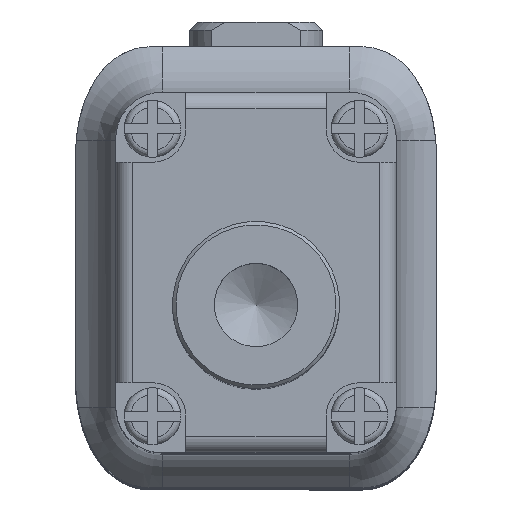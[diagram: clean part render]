
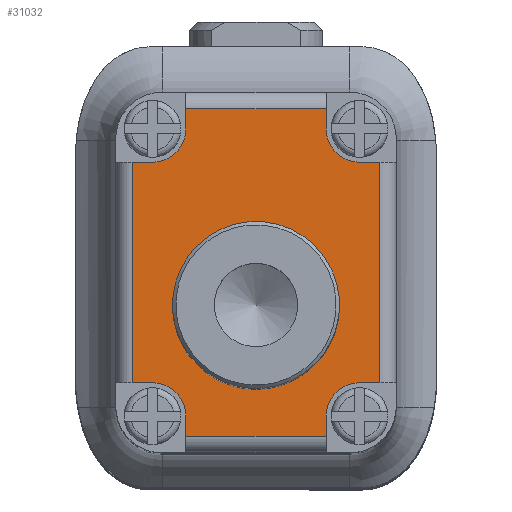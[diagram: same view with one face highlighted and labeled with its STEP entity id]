
A CAD part, top view. The second image highlights one B-rep face of the part: STEP entity #31032.
In plain terms, the highlighted planar face has unit normal (0, 0, 1).
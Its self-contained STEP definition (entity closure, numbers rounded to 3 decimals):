
#292 = DIRECTION ( 'NONE',  ( 1., 0., 0. ) ) ;
#326 = EDGE_CURVE ( 'NONE', #13356, #17825, #51461, .T. ) ;
#646 = DIRECTION ( 'NONE',  ( -1., 0., 0. ) ) ;
#690 = CIRCLE ( 'NONE', #46564, 2.5 ) ;
#863 = LINE ( 'NONE', #28950, #17367 ) ;
#910 = CARTESIAN_POINT ( 'NONE',  ( -3.7, 4.3, 39.5 ) ) ;
#2048 = DIRECTION ( 'NONE',  ( 0., 1., 0. ) ) ;
#2525 = CARTESIAN_POINT ( 'NONE',  ( 0., 0., 39.5 ) ) ;
#4175 = DIRECTION ( 'NONE',  ( 1., 0., 0. ) ) ;
#4527 = CARTESIAN_POINT ( 'NONE',  ( -2.1, 5.9, 39.5 ) ) ;
#4581 = AXIS2_PLACEMENT_3D ( 'NONE', #7989, #23763, #59899 ) ;
#4932 = FACE_OUTER_BOUND ( 'NONE', #12326, .T. ) ;
#6089 = EDGE_CURVE ( 'NONE', #6220, #39320, #33608, .T. ) ;
#6220 = VERTEX_POINT ( 'NONE', #55813 ) ;
#6900 = CARTESIAN_POINT ( 'NONE',  ( 2.1, -0.2, 39.5 ) ) ;
#7195 = DIRECTION ( 'NONE',  ( 0., -1., 0. ) ) ;
#7707 = DIRECTION ( 'NONE',  ( 1., 0., 0. ) ) ;
#7897 = CARTESIAN_POINT ( 'NONE',  ( 3.1, -2.3, 39.5 ) ) ;
#7989 = CARTESIAN_POINT ( 'NONE',  ( -3.1, 5.3, 39.5 ) ) ;
#8858 = LINE ( 'NONE', #27788, #58433 ) ;
#9162 = VERTEX_POINT ( 'NONE', #41100 ) ;
#9494 = EDGE_CURVE ( 'NONE', #53313, #45799, #14066, .T. ) ;
#9506 = LINE ( 'NONE', #28452, #45904 ) ;
#9821 = CARTESIAN_POINT ( 'NONE',  ( 2.5, -2.7, 39.5 ) ) ;
#11414 = CIRCLE ( 'NONE', #13380, 1. ) ;
#11609 = CARTESIAN_POINT ( 'NONE',  ( 3.7, -2.3, 39.5 ) ) ;
#12326 = EDGE_LOOP ( 'NONE', ( #59821, #25979, #54280, #44566, #38048, #17124, #13595, #33919, #39257, #28588, #48825, #49644, #59632, #24680, #41268, #58340 ) ) ;
#12517 = EDGE_CURVE ( 'NONE', #33842, #41521, #11414, .T. ) ;
#12721 = EDGE_CURVE ( 'NONE', #48578, #48578, #690, .T. ) ;
#13134 = CARTESIAN_POINT ( 'NONE',  ( -2.1, -3.9, 39.5 ) ) ;
#13189 = DIRECTION ( 'NONE',  ( -1., 0., 0. ) ) ;
#13356 = VERTEX_POINT ( 'NONE', #13134 ) ;
#13380 = AXIS2_PLACEMENT_3D ( 'NONE', #42867, #43166, #19669 ) ;
#13595 = ORIENTED_EDGE ( 'NONE', *, *, #30666, .F. ) ;
#13619 = VECTOR ( 'NONE', #59188, 1000. ) ;
#14066 = LINE ( 'NONE', #46151, #25646 ) ;
#15304 = FACE_BOUND ( 'NONE', #40498, .T. ) ;
#15330 = EDGE_CURVE ( 'NONE', #33842, #6220, #24574, .T. ) ;
#15382 = VECTOR ( 'NONE', #4175, 1000. ) ;
#16022 = EDGE_CURVE ( 'NONE', #47951, #39320, #43568, .T. ) ;
#16274 = DIRECTION ( 'NONE',  ( 0., 0., 1. ) ) ;
#16332 = AXIS2_PLACEMENT_3D ( 'NONE', #9821, #51983, #646 ) ;
#17094 = CARTESIAN_POINT ( 'NONE',  ( 2.5, 0., 39.5 ) ) ;
#17124 = ORIENTED_EDGE ( 'NONE', *, *, #30554, .T. ) ;
#17304 = VECTOR ( 'NONE', #2048, 1000. ) ;
#17367 = VECTOR ( 'NONE', #19502, 1000. ) ;
#17794 = VERTEX_POINT ( 'NONE', #31273 ) ;
#17825 = VERTEX_POINT ( 'NONE', #26089 ) ;
#18540 = CARTESIAN_POINT ( 'NONE',  ( 0., 4.3, 39.5 ) ) ;
#19502 = DIRECTION ( 'NONE',  ( -1., 0., 0. ) ) ;
#19669 = DIRECTION ( 'NONE',  ( 1., 0., 0. ) ) ;
#19675 = DIRECTION ( 'NONE',  ( 0., 0., 1. ) ) ;
#21318 = CARTESIAN_POINT ( 'NONE',  ( 2.1, 5.3, 39.5 ) ) ;
#21597 = LINE ( 'NONE', #49398, #27058 ) ;
#22224 = LINE ( 'NONE', #59800, #13619 ) ;
#22430 = EDGE_CURVE ( 'NONE', #17794, #45799, #9506, .T. ) ;
#22951 = CARTESIAN_POINT ( 'NONE',  ( -2.1, 5.3, 39.5 ) ) ;
#23520 = DIRECTION ( 'NONE',  ( 0., -1., 0. ) ) ;
#23763 = DIRECTION ( 'NONE',  ( 0., 0., 1. ) ) ;
#24574 = LINE ( 'NONE', #44102, #43573 ) ;
#24680 = ORIENTED_EDGE ( 'NONE', *, *, #9494, .T. ) ;
#24815 = DIRECTION ( 'NONE',  ( 1., 0., 0. ) ) ;
#25182 = AXIS2_PLACEMENT_3D ( 'NONE', #33391, #52038, #24815 ) ;
#25646 = VECTOR ( 'NONE', #23520, 1000. ) ;
#25979 = ORIENTED_EDGE ( 'NONE', *, *, #326, .T. ) ;
#26089 = CARTESIAN_POINT ( 'NONE',  ( 2.1, -3.9, 39.5 ) ) ;
#27058 = VECTOR ( 'NONE', #36534, 1000. ) ;
#27175 = VERTEX_POINT ( 'NONE', #11609 ) ;
#27788 = CARTESIAN_POINT ( 'NONE',  ( 0., -2.3, 39.5 ) ) ;
#28154 = PLANE ( 'NONE',  #16332 ) ;
#28354 = VERTEX_POINT ( 'NONE', #41178 ) ;
#28452 = CARTESIAN_POINT ( 'NONE',  ( 0., -2.3, 39.5 ) ) ;
#28588 = ORIENTED_EDGE ( 'NONE', *, *, #6089, .T. ) ;
#28943 = EDGE_CURVE ( 'NONE', #9162, #17794, #37820, .T. ) ;
#28950 = CARTESIAN_POINT ( 'NONE',  ( 0., 4.3, 39.5 ) ) ;
#30554 = EDGE_CURVE ( 'NONE', #27175, #35946, #21597, .T. ) ;
#30666 = EDGE_CURVE ( 'NONE', #41521, #35946, #41727, .T. ) ;
#31032 = ADVANCED_FACE ( 'NONE', ( #4932, #15304 ), #28154, .F. ) ;
#31273 = CARTESIAN_POINT ( 'NONE',  ( -3.1, -2.3, 39.5 ) ) ;
#32525 = DIRECTION ( 'NONE',  ( 1., 0., 0. ) ) ;
#33310 = CARTESIAN_POINT ( 'NONE',  ( -2.1, 5.9, 39.5 ) ) ;
#33391 = CARTESIAN_POINT ( 'NONE',  ( -3.1, -3.3, 39.5 ) ) ;
#33432 = CARTESIAN_POINT ( 'NONE',  ( 2.1, -3.9, 39.5 ) ) ;
#33608 = LINE ( 'NONE', #33310, #57701 ) ;
#33842 = VERTEX_POINT ( 'NONE', #21318 ) ;
#33919 = ORIENTED_EDGE ( 'NONE', *, *, #12517, .F. ) ;
#34234 = EDGE_CURVE ( 'NONE', #52078, #17825, #58517, .T. ) ;
#35511 = CARTESIAN_POINT ( 'NONE',  ( 3.7, 4.3, 39.5 ) ) ;
#35946 = VERTEX_POINT ( 'NONE', #35511 ) ;
#36534 = DIRECTION ( 'NONE',  ( 0., 1., 0. ) ) ;
#37291 = CIRCLE ( 'NONE', #45112, 1. ) ;
#37820 = CIRCLE ( 'NONE', #25182, 1. ) ;
#38048 = ORIENTED_EDGE ( 'NONE', *, *, #40990, .T. ) ;
#38470 = DIRECTION ( 'NONE',  ( -1., 0., 0. ) ) ;
#39257 = ORIENTED_EDGE ( 'NONE', *, *, #15330, .T. ) ;
#39320 = VERTEX_POINT ( 'NONE', #4527 ) ;
#39372 = EDGE_CURVE ( 'NONE', #28354, #53313, #863, .T. ) ;
#39919 = ORIENTED_EDGE ( 'NONE', *, *, #12721, .F. ) ;
#40498 = EDGE_LOOP ( 'NONE', ( #39919 ) ) ;
#40990 = EDGE_CURVE ( 'NONE', #53572, #27175, #8858, .T. ) ;
#41100 = CARTESIAN_POINT ( 'NONE',  ( -2.1, -3.3, 39.5 ) ) ;
#41178 = CARTESIAN_POINT ( 'NONE',  ( -3.1, 4.3, 39.5 ) ) ;
#41268 = ORIENTED_EDGE ( 'NONE', *, *, #22430, .F. ) ;
#41521 = VERTEX_POINT ( 'NONE', #60235 ) ;
#41567 = CARTESIAN_POINT ( 'NONE',  ( 2.1, -3.3, 39.5 ) ) ;
#41727 = LINE ( 'NONE', #18540, #15382 ) ;
#42384 = EDGE_CURVE ( 'NONE', #9162, #13356, #22224, .T. ) ;
#42867 = CARTESIAN_POINT ( 'NONE',  ( 3.1, 5.3, 39.5 ) ) ;
#43166 = DIRECTION ( 'NONE',  ( 0., 0., 1. ) ) ;
#43568 = LINE ( 'NONE', #44482, #17304 ) ;
#43573 = VECTOR ( 'NONE', #48099, 1000. ) ;
#44102 = CARTESIAN_POINT ( 'NONE',  ( 2.1, -0.2, 39.5 ) ) ;
#44482 = CARTESIAN_POINT ( 'NONE',  ( -2.1, -0.2, 39.5 ) ) ;
#44566 = ORIENTED_EDGE ( 'NONE', *, *, #46874, .F. ) ;
#45112 = AXIS2_PLACEMENT_3D ( 'NONE', #58047, #19675, #56330 ) ;
#45574 = CIRCLE ( 'NONE', #4581, 1. ) ;
#45799 = VERTEX_POINT ( 'NONE', #54623 ) ;
#45904 = VECTOR ( 'NONE', #13189, 1000. ) ;
#46151 = CARTESIAN_POINT ( 'NONE',  ( -3.7, -2.3, 39.5 ) ) ;
#46564 = AXIS2_PLACEMENT_3D ( 'NONE', #2525, #16274, #7707 ) ;
#46874 = EDGE_CURVE ( 'NONE', #53572, #52078, #37291, .T. ) ;
#47951 = VERTEX_POINT ( 'NONE', #22951 ) ;
#48099 = DIRECTION ( 'NONE',  ( 0., 1., 0. ) ) ;
#48578 = VERTEX_POINT ( 'NONE', #17094 ) ;
#48825 = ORIENTED_EDGE ( 'NONE', *, *, #16022, .F. ) ;
#49396 = VECTOR ( 'NONE', #32525, 1000. ) ;
#49398 = CARTESIAN_POINT ( 'NONE',  ( 3.7, 4.3, 39.5 ) ) ;
#49644 = ORIENTED_EDGE ( 'NONE', *, *, #58953, .F. ) ;
#51461 = LINE ( 'NONE', #33432, #49396 ) ;
#51983 = DIRECTION ( 'NONE',  ( 0., 0., -1. ) ) ;
#52038 = DIRECTION ( 'NONE',  ( 0., 0., 1. ) ) ;
#52078 = VERTEX_POINT ( 'NONE', #41567 ) ;
#53313 = VERTEX_POINT ( 'NONE', #910 ) ;
#53572 = VERTEX_POINT ( 'NONE', #7897 ) ;
#54280 = ORIENTED_EDGE ( 'NONE', *, *, #34234, .F. ) ;
#54623 = CARTESIAN_POINT ( 'NONE',  ( -3.7, -2.3, 39.5 ) ) ;
#55813 = CARTESIAN_POINT ( 'NONE',  ( 2.1, 5.9, 39.5 ) ) ;
#56330 = DIRECTION ( 'NONE',  ( 1., 0., 0. ) ) ;
#56493 = VECTOR ( 'NONE', #7195, 1000. ) ;
#57701 = VECTOR ( 'NONE', #38470, 1000. ) ;
#58047 = CARTESIAN_POINT ( 'NONE',  ( 3.1, -3.3, 39.5 ) ) ;
#58340 = ORIENTED_EDGE ( 'NONE', *, *, #28943, .F. ) ;
#58433 = VECTOR ( 'NONE', #292, 1000. ) ;
#58517 = LINE ( 'NONE', #6900, #56493 ) ;
#58953 = EDGE_CURVE ( 'NONE', #28354, #47951, #45574, .T. ) ;
#59188 = DIRECTION ( 'NONE',  ( 0., -1., 0. ) ) ;
#59632 = ORIENTED_EDGE ( 'NONE', *, *, #39372, .T. ) ;
#59800 = CARTESIAN_POINT ( 'NONE',  ( -2.1, -0.2, 39.5 ) ) ;
#59821 = ORIENTED_EDGE ( 'NONE', *, *, #42384, .T. ) ;
#59899 = DIRECTION ( 'NONE',  ( 1., 0., 0. ) ) ;
#60235 = CARTESIAN_POINT ( 'NONE',  ( 3.1, 4.3, 39.5 ) ) ;
